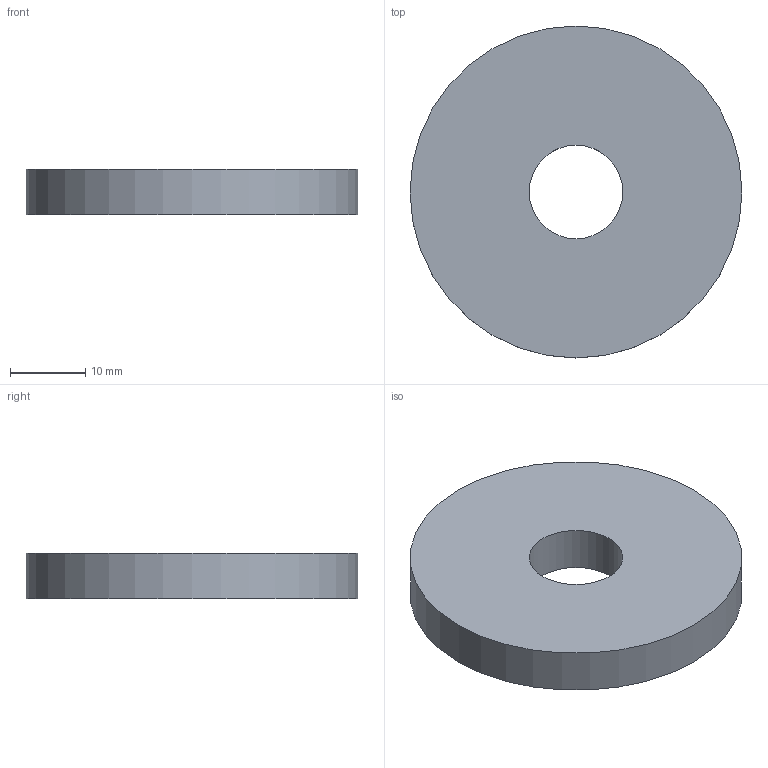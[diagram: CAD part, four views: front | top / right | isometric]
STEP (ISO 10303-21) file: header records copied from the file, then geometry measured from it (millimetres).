
FILE_DESCRIPTION(('Open CASCADE Model'),'2;1');
FILE_NAME('Open CASCADE Shape Model','2026-10-04T01:02:28',('Author'),( 'Open CASCADE'),'Open CASCADE STEP processor 8.0','Open CASCADE 8.0' ,'Unknown');
FILE_SCHEMA(('AUTOMOTIVE_DESIGN { 1 0 10303 214 1 1 1 1 }'));
Length unit declared in the file: millimetre
Products named in the file (1): Open CASCADE STEP translator 8.0 134
Bounding box: 44 x 44 x 6 mm (x, y, z)
Volume: 8398.6 mm3; surface area: 3862.7 mm2
Topology: 1 solids, 1 shells, 4 faces, 6 edges, 4 vertices
Faces by surface type: cylinder 2, plane 2
Full cylindrical faces by diameter (mm): 12.4 x1, 44 x1
Entity records: 186 total; most frequent: DIRECTION 32, CARTESIAN_POINT 27, ORIENTED_EDGE 12, PCURVE 12, DEFINITIONAL_REPRESENTATION 12, LINE 10, VECTOR 10, AXIS2_PLACEMENT_3D 9
